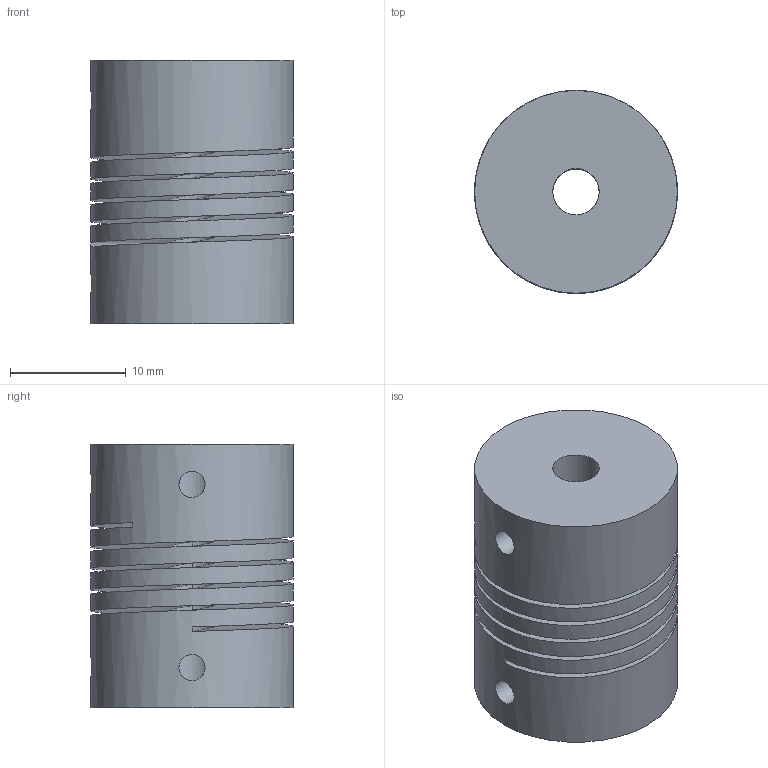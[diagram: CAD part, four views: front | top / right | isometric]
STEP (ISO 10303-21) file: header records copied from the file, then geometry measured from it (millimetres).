
FILE_DESCRIPTION(/* description */ ('Alibre Inc.'),/* implementation_level */ '2;1');
FILE_NAME(/* name */ 'export0',/* time_stamp */ '2013-07-09T14:18:09-06:00',/* author */ (''),/* organization */ (''),/* preprocessor_version */ 'ST-DEVELOPER v14',/* originating_system */ 'Alibre',/* authorisation */ '');
FILE_SCHEMA (('ALIBRE_SCHEMA','CONFIG_CONTROL_DESIGN'));
Length unit declared in the file: centimetre
Products named in the file (1): ID_1
Bounding box: 17.5 x 17.5 x 22.75 mm (x, y, z)
Volume: 4638.7 mm3; surface area: 4267.5 mm2
Topology: 1 solids, 1 shells, 20 faces, 68 edges, 48 vertices
Faces by surface type: cylinder 14, plane 4, bspline 2
Full cylindrical faces by diameter (mm): 2.25 x4, 4 x5, 17.5 x5
Entity records: 2463 total; most frequent: CARTESIAN_POINT 1311, DIRECTION 75, CONSTRAINTPAIRUV 67, REFERENCEDEPENDENTUV 60, ORIENTED_EDGE 56, VECTOR 44, REFERENCEPOINTUV 40, ENTITYHEADERPROPERTIES 36
